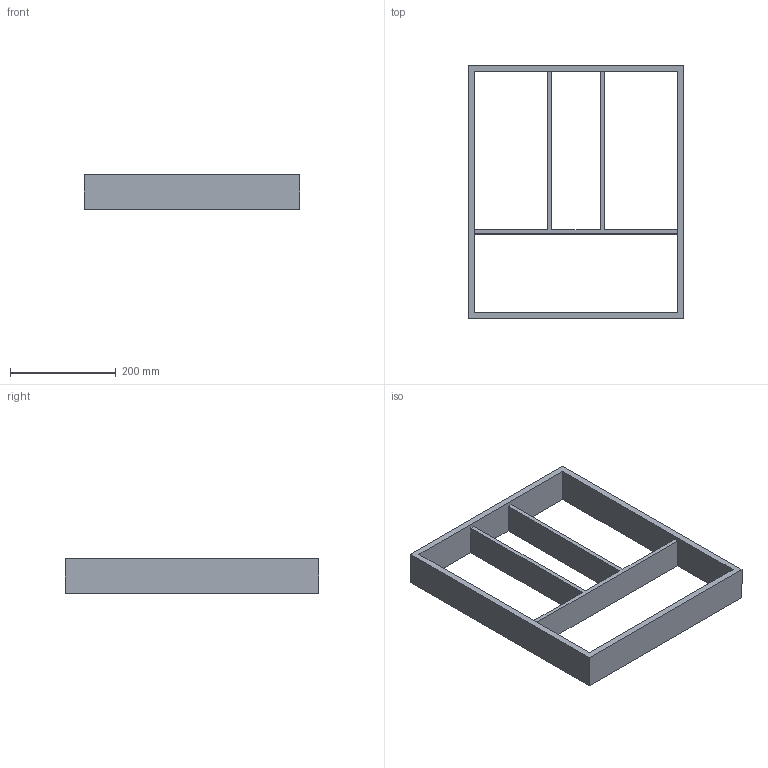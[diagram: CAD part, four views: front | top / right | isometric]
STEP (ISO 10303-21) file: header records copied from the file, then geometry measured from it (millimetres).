
FILE_DESCRIPTION (( 'STEP AP214' ), '1' );
FILE_NAME ('Vario Multi NL500_B500_16 mm_Alu.step', '2010-10-07T06:24:30', ( 'grass' ), ( '' ), 'SwSTEP 2.0', 'SolidWorks 2010', '' );
FILE_SCHEMA (( 'AUTOMOTIVE_DESIGN' ));
Length unit declared in the file: millimetre
Products named in the file (1): Vario Multi NL500_B500_16 mm_Alu
Bounding box: 408 x 479 x 65 mm (x, y, z)
Volume: 1793889.6 mm3; surface area: 390676 mm2
Topology: 1 solids, 1 shells, 19 faces, 60 edges, 40 vertices
Faces by surface type: plane 19
Entity records: 704 total; most frequent: ORIENTED_EDGE 120, CARTESIAN_POINT 120, DIRECTION 100, EDGE_CURVE 60, LINE 60, VECTOR 60, VERTEX_POINT 40, EDGE_LOOP 24
